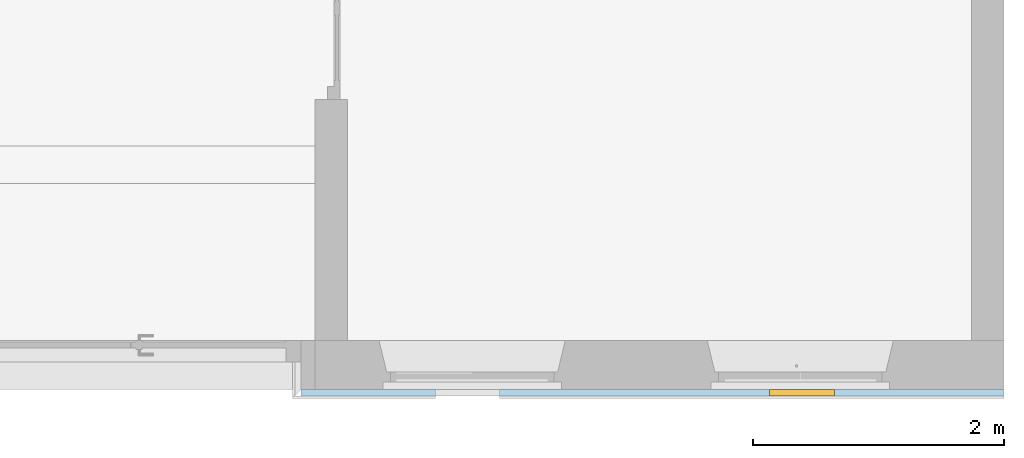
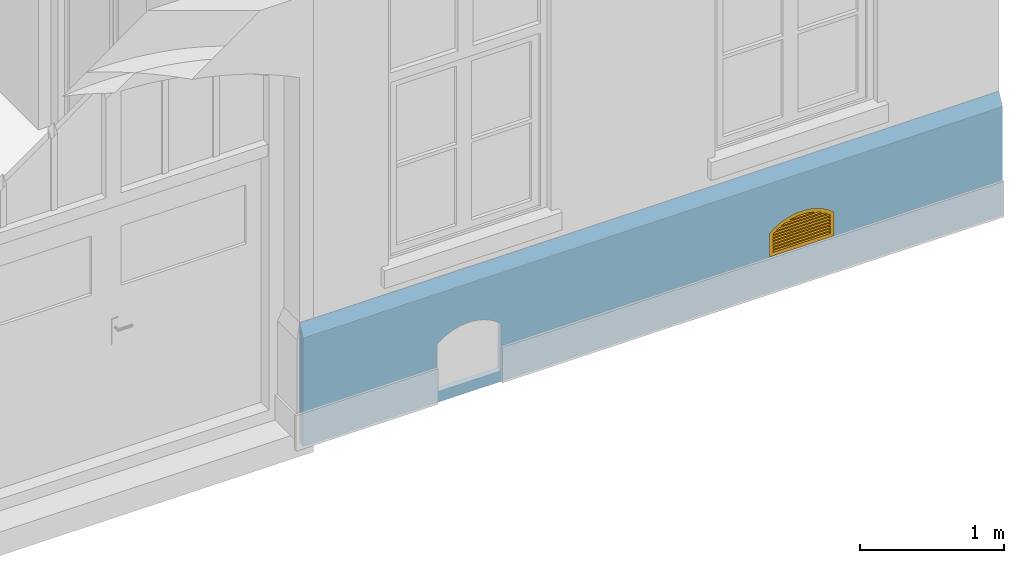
"""IFC4 building model written with IfcOpenShell, lengths in metres."""

import ifcopenshell
import ifcopenshell.guid

model = None  # the IFC model being written
_history = None  # IfcOwnerHistory: only IFC2X3 demands one
_inside = {}  # id of a spatial element -> (the spatial element, [elements in it])
_under = {}  # id of a project, library or spatial element -> (it, [spatial elements below it])
_declared = {}  # id of a project -> (the project, [libraries it declares])
_typed = {}  # id of a type object -> (the type object, [elements of that type])
_made_of = {}  # id of a material, layer set ... -> (it, [elements and type objects made of it])


def new_model(schema):
    """Start an empty IFC model of exactly this schema.

    Asked for "IFC4X3", IfcOpenShell would pick the latest addendum, in which some entities
    have other attributes; the version numbers below select the first issue.
    IFC2X3 requires an IfcOwnerHistory on every rooted entity: one is made here for all.
    """
    global model, _history
    if schema == "IFC4X3":
        model = ifcopenshell.file(schema_version=(4, 3, 0, 0))
    else:
        model = ifcopenshell.file(schema=schema)
    _inside.clear()
    _under.clear()
    _declared.clear()
    _typed.clear()
    _made_of.clear()
    _history = None
    if model.schema == "IFC2X3":
        org = make("IfcOrganization", Name="unknown")
        user = make(
            "IfcPersonAndOrganization",
            ThePerson=make("IfcPerson", FamilyName="unknown"),
            TheOrganization=org,
        )
        app = make(
            "IfcApplication",
            ApplicationDeveloper=org,
            Version="unknown",
            ApplicationFullName="unknown",
            ApplicationIdentifier="unknown",
        )
        _history = make(
            "IfcOwnerHistory",
            OwningUser=user,
            OwningApplication=app,
            ChangeAction="ADDED",
            CreationDate=0,
        )
    return model


def make(cls, **values):
    """One entity of the class cls with the attributes given. An attribute that is None is left unset."""
    return model.create_entity(
        cls, **{name: value for name, value in values.items() if value is not None}
    )


def entity(cls, *values):
    """Any entity or typed value of the class cls, its attributes in the order of the schema. None: left unset."""
    e = model.create_entity(cls)
    for i, value in enumerate(values):
        if value is not None:
            e[i] = value
    return e


def rooted(cls, **values):
    """An entity with a GlobalId (a new one), such as an element, a storey or a relation."""
    return make(cls, GlobalId=ifcopenshell.guid.new(), OwnerHistory=_history, **values)


def si_unit(unit_type, name, prefix=None):
    """IfcSIUnit, for example si_unit("LENGTHUNIT", "METRE", prefix="MILLI")."""
    return make("IfcSIUnit", UnitType=unit_type, Prefix=prefix, Name=name)


def converted_unit(unit_type, name, factor, base, dimensions=None, offset=None):
    """IfcConversionBasedUnit, such as the inch: factor (a typed value) times the base unit."""
    return make(
        "IfcConversionBasedUnit"
        if offset is None
        else "IfcConversionBasedUnitWithOffset",
        ConversionOffset=offset,
        Dimensions=None
        if dimensions is None
        else entity("IfcDimensionalExponents", *dimensions),
        UnitType=unit_type,
        Name=name,
        ConversionFactor=make(
            "IfcMeasureWithUnit", ValueComponent=factor, UnitComponent=base
        ),
    )


def derived_unit(unit_type, elements):
    """IfcDerivedUnit: a product of units, each with its exponent."""
    return make(
        "IfcDerivedUnit",
        Elements=[
            make("IfcDerivedUnitElement", Unit=unit, Exponent=power)
            for unit, power in elements
        ],
        UnitType=unit_type,
    )


def assignment(units):
    """IfcUnitAssignment: the units of a project."""
    return None if units is None else make("IfcUnitAssignment", Units=units)


def point(xyz):
    """IfcCartesianPoint."""
    return None if xyz is None else make("IfcCartesianPoint", Coordinates=xyz)


def direction(xyz):
    """IfcDirection."""
    return None if xyz is None else make("IfcDirection", DirectionRatios=xyz)


def frame(location, z_axis=None, x_axis=None):
    """IfcAxis2Placement3D, a coordinate frame: its origin and axes. An axis left out is left unset."""
    return make(
        "IfcAxis2Placement3D",
        Location=point(location),
        Axis=direction(z_axis),
        RefDirection=direction(x_axis),
    )


def frame_2d(location, x_axis=None):
    """IfcAxis2Placement2D, a coordinate frame in the plane: its origin and x axis."""
    return make(
        "IfcAxis2Placement2D", Location=point(location), RefDirection=direction(x_axis)
    )


def origin():
    """The frame at (0, 0, 0) with its axes left unset."""
    return frame((0.0, 0.0, 0.0))


def origin_with_axes():
    """The frame at (0, 0, 0) with the z axis (0, 0, 1) and the x axis (1, 0, 0) written out."""
    return frame((0.0, 0.0, 0.0), z_axis=(0.0, 0.0, 1.0), x_axis=(1.0, 0.0, 0.0))


def place(relative_to, where):
    """IfcLocalPlacement: puts the frame where relative to a parent placement (None: the world)."""
    return make(
        "IfcLocalPlacement", PlacementRelTo=relative_to, RelativePlacement=where
    )


def context(
    kind, dimensions, precision=None, world=None, true_north=None, identifier=None
):
    """IfcGeometricRepresentationContext, for example the 3D "Model" context."""
    return make(
        "IfcGeometricRepresentationContext",
        ContextIdentifier=identifier,
        ContextType=kind,
        CoordinateSpaceDimension=dimensions,
        Precision=precision,
        WorldCoordinateSystem=world,
        TrueNorth=true_north,
    )


def subcontext(parent, identifier, kind, view, scale=None):
    """IfcGeometricRepresentationSubContext, for example "Body" below "Model"."""
    return make(
        "IfcGeometricRepresentationSubContext",
        ContextIdentifier=identifier,
        ContextType=kind,
        ParentContext=parent,
        TargetScale=scale,
        TargetView=view,
    )


def project(units=None, contexts=None):
    """IfcProject with its units and contexts."""
    return rooted(
        "IfcProject",
        Name="project",
        RepresentationContexts=contexts,
        UnitsInContext=assignment(units),
    )


def spatial(cls, under=None, at=None, **own):
    """A site, building, storey or space (cls), placed at a placement, below another one or the project."""
    s = rooted(cls, ObjectPlacement=at, **own)
    if under is not None:
        _under.setdefault(under.id(), (under, []))[1].append(s)
    return s


def polyline(points):
    """IfcPolyline through the points."""
    return make("IfcPolyline", Points=[point(p) for p in points])


def profile(cls, at=None, kind="AREA", **sizes):
    """A parametric profile (cls). Its sizes go by their IFC names, for example OverallWidth=200.0."""
    return make(cls, ProfileType=kind, Position=at, **sizes)


def rectangle(**sizes):
    """IfcRectangleProfileDef."""
    return profile("IfcRectangleProfileDef", **sizes)


def outline(outer, holes=None, kind="AREA"):
    """IfcArbitraryClosedProfileDef: a profile drawn as a closed curve; with holes, ...WithVoids."""
    if holes is None:
        return make("IfcArbitraryClosedProfileDef", ProfileType=kind, OuterCurve=outer)
    return make(
        "IfcArbitraryProfileDefWithVoids",
        ProfileType=kind,
        OuterCurve=outer,
        InnerCurves=holes,
    )


def extrude(swept, where, along, depth):
    """IfcExtrudedAreaSolid: the profile swept, set in the frame where, extruded along a direction by depth."""
    return make(
        "IfcExtrudedAreaSolid",
        SweptArea=swept,
        Position=where,
        ExtrudedDirection=direction(along),
        Depth=depth,
    )


def clip(a, b, op="DIFFERENCE"):
    """IfcBooleanClippingResult: the solid a cut by the half space b."""
    return make(
        "IfcBooleanClippingResult", Operator=op, FirstOperand=a, SecondOperand=b
    )


def halfspace(plane, agree):
    """IfcHalfSpaceSolid: all space on one side of the plane z = 0 of the frame plane."""
    return make(
        "IfcHalfSpaceSolid",
        BaseSurface=make("IfcPlane", Position=plane),
        AgreementFlag=agree,
    )


def faces_of(points, faces, orient=None, outer=None):
    """IfcFace entities. A face is a list of loops; a loop is a list of indices into points, from 0.

    orient and outer hold one flag for each loop. By default every Orientation is true, the
    first loop of a face is its IfcFaceOuterBound and the others are IfcFaceBound.
    """
    made = []
    for i, loops in enumerate(faces):
        bounds = []
        for j, loop in enumerate(loops):
            is_outer = j == 0 if outer is None else outer[i][j]
            bounds.append(
                make(
                    "IfcFaceOuterBound" if is_outer else "IfcFaceBound",
                    Bound=make("IfcPolyLoop", Polygon=[points[k] for k in loop]),
                    Orientation=True if orient is None else orient[i][j],
                )
            )
        made.append(make("IfcFace", Bounds=bounds))
    return made


def closed_shell(faces, orient=None, outer=None):
    """The faces of one IfcClosedShell. faceted_brep and surface_model build it on their shared points."""
    return ("IfcClosedShell", faces, orient, outer)


def open_shell(faces, orient=None, outer=None):
    """The faces of one IfcOpenShell. surface_model builds it on its shared points."""
    return ("IfcOpenShell", faces, orient, outer)


def surface_model(cls, points, shells):
    """IfcFaceBasedSurfaceModel or IfcShellBasedSurfaceModel (cls): surfaces that need not close."""
    shared = [point(p) for p in points]
    made = [make(c, CfsFaces=faces_of(shared, fs, o, b)) for c, fs, o, b in shells]
    if cls == "IfcFaceBasedSurfaceModel":
        return make(cls, FbsmFaces=made)
    return make(cls, SbsmBoundary=made)


def shape(context_of_items, identifier, shape_type, items):
    """IfcShapeRepresentation: the items that make up one representation, for example the "Body"."""
    return make(
        "IfcShapeRepresentation",
        ContextOfItems=context_of_items,
        RepresentationIdentifier=identifier,
        RepresentationType=shape_type,
        Items=items,
    )


def source(mapping_origin, context_of_items, identifier, shape_type, items):
    """IfcRepresentationMap: a shape defined once, which mapped items show again and again."""
    return make(
        "IfcRepresentationMap",
        MappingOrigin=mapping_origin,
        MappedRepresentation=shape(context_of_items, identifier, shape_type, items),
    )


def transform(
    local_origin,
    x_axis=None,
    y_axis=None,
    z_axis=None,
    scale=None,
    scale2=None,
    scale3=None,
    uniform=True,
):
    """IfcCartesianTransformationOperator3D, or its non-uniform kind. x_axis, y_axis, z_axis: its Axis1, 2, 3."""
    if uniform:
        return make(
            "IfcCartesianTransformationOperator3D",
            Axis1=direction(x_axis),
            Axis2=direction(y_axis),
            LocalOrigin=point(local_origin),
            Scale=scale,
            Axis3=direction(z_axis),
        )
    return make(
        "IfcCartesianTransformationOperator3DnonUniform",
        Axis1=direction(x_axis),
        Axis2=direction(y_axis),
        LocalOrigin=point(local_origin),
        Scale=scale,
        Axis3=direction(z_axis),
        Scale2=scale2,
        Scale3=scale3,
    )


def mapped(mapping_source, mapping_target):
    """IfcMappedItem: shows the shape of a source again, moved by a transform."""
    return make(
        "IfcMappedItem", MappingSource=mapping_source, MappingTarget=mapping_target
    )


def material(Name=None, Category=None):
    """IfcMaterial."""
    return make("IfcMaterial", Name=Name, Category=Category)


def layer(
    of_material, thickness, ventilated=None, Name=None, Category=None, Priority=None
):
    """IfcMaterialLayer: one layer of a wall or slab, of a material (None: an air gap)."""
    return make(
        "IfcMaterialLayer",
        Material=of_material,
        LayerThickness=thickness,
        IsVentilated=ventilated,
        Name=Name,
        Category=Category,
        Priority=Priority,
    )


def layer_set(layers, Name=None):
    """IfcMaterialLayerSet."""
    return make("IfcMaterialLayerSet", MaterialLayers=layers, LayerSetName=Name)


def layer_usage(for_layer_set, set_direction, sense, offset, extent=None):
    """IfcMaterialLayerSetUsage: how a layer set lies in its element."""
    return make(
        "IfcMaterialLayerSetUsage",
        ForLayerSet=for_layer_set,
        LayerSetDirection=set_direction,
        DirectionSense=sense,
        OffsetFromReferenceLine=offset,
        ReferenceExtent=extent,
    )


def made_of(thing, what):
    """Note that an element or type object is made of a material, layer set ...; save() writes the relation."""
    if what is not None:
        _made_of.setdefault(what.id(), (what, []))[1].append(thing)
    return thing


def element(
    cls,
    number,
    at=None,
    inside=None,
    cuts=None,
    type_object=None,
    material=None,
    context=None,
    identifier="Body",
    shape_type=None,
    held_by="IfcProductDefinitionShape",
    body=None,
    shapes=None,
    **own,
):
    """One element of the class cls, such as IfcWall. Its Tag is "e" and its number.

    at: its placement. inside: the storey or other place that contains it. cuts: it is an
    opening in that element (IfcRelVoidsElement). A single representation is given by context,
    identifier, shape_type and body (its items); several are given by shapes. held_by: the class
    of the entity that holds the representations. save() writes the other relations.
    """
    e = rooted(cls, Tag="e%d" % number, ObjectPlacement=at, **own)
    if body is not None:
        shapes = [shape(context, identifier, shape_type, body)]
    if shapes is not None:
        e.Representation = make(held_by, Representations=shapes)
    if inside is not None:
        _inside.setdefault(inside.id(), (inside, []))[1].append(e)
    if cuts is not None:
        rooted(
            "IfcRelVoidsElement", RelatingBuildingElement=cuts, RelatedOpeningElement=e
        )
    if type_object is not None:
        _typed.setdefault(type_object.id(), (type_object, []))[1].append(e)
    return made_of(e, material)


def fill(opening, filler):
    """IfcRelFillsElement: the door or window that sits in an opening."""
    return rooted(
        "IfcRelFillsElement",
        RelatingOpeningElement=opening,
        RelatedBuildingElement=filler,
    )


def aggregate(whole, parts):
    """IfcRelAggregates: a whole, such as a stair, and the parts it consists of."""
    return rooted("IfcRelAggregates", RelatingObject=whole, RelatedObjects=parts)


def save(model, path):
    """Write the relations noted so far, then the file.

    IfcRelAggregates (storeys below a building ...), IfcRelContainedInSpatialStructure (elements
    in a storey), IfcRelDefinesByType, IfcRelAssociatesMaterial and IfcRelDeclares: one each for
    every whole, place, type object, material and project.
    """
    for whole, parts in _under.values():
        aggregate(whole, parts)
    for where, things in _inside.values():
        rooted(
            "IfcRelContainedInSpatialStructure",
            RelatedElements=things,
            RelatingStructure=where,
        )
    for kind, things in _typed.values():
        rooted("IfcRelDefinesByType", RelatedObjects=things, RelatingType=kind)
    for what, things in _made_of.values():
        rooted("IfcRelAssociatesMaterial", RelatedObjects=things, RelatingMaterial=what)
    for by, libraries in _declared.values():
        rooted("IfcRelDeclares", RelatingContext=by, RelatedDefinitions=libraries)
    model.write(path)


model = new_model("IFC4")

# Units and contexts
model_context = context("Model", 3, precision=1e-05, world=origin())
body_context = subcontext(model_context, "Body", "Model", "MODEL_VIEW")
ifc_project = project(units=[si_unit("LENGTHUNIT", "METRE"), si_unit("AREAUNIT", "SQUARE_METRE"), si_unit("VOLUMEUNIT", "CUBIC_METRE"), si_unit("MASSUNIT", "GRAM", prefix="KILO"), converted_unit("PLANEANGLEUNIT", "DEGREE", entity("IfcPlaneAngleMeasure", 0.0174532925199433), si_unit("PLANEANGLEUNIT", "RADIAN"), dimensions=[0, 0, 0, 0, 0, 0, 0]), derived_unit("THERMALTRANSMITTANCEUNIT", [(si_unit("POWERUNIT", "WATT"), 1), (si_unit("THERMODYNAMICTEMPERATUREUNIT", "KELVIN"), -1), (si_unit("LENGTHUNIT", "METRE"), -2)]), derived_unit("VOLUMETRICFLOWRATEUNIT", [(si_unit("LENGTHUNIT", "METRE"), 3), (converted_unit("TIMEUNIT", "hour", entity("IfcTimeMeasure", 3600.0), si_unit("TIMEUNIT", "SECOND"), dimensions=[0, 0, 1, 0, 0, 0, 0]), -1), (si_unit("LENGTHUNIT", "METRE"), -1)])], contexts=[model_context])

# Building, storeys
building_placement = place(None, origin())
building = spatial("IfcBuilding", under=ifc_project, at=building_placement, Name="Bestandsgebäude A - Sporthalle / Wohnhaus (TB 100-499)   ANPASSEN !!!", CompositionType="ELEMENT")
storey_1_placement = place(building_placement, origin())
storey_1 = spatial("IfcBuildingStorey", under=building, at=storey_1_placement, Name="Geb. A Erdgeschoss (TB 200-249)", CompositionType="ELEMENT", Elevation=0.0)
storey_2_placement = place(storey_1_placement, origin())
storey_2 = spatial("IfcBuildingStorey", under=storey_1, at=storey_2_placement, Name="Architektur (TB 200-209)", CompositionType="PARTIAL")

# Wall, openings, window
ifc_material = material(Name="concrete")
ifc_layer = layer(ifc_material, 0.05)
ifc_layer_set = layer_set([ifc_layer])
ifc_layer_usage = layer_usage(ifc_layer_set, "AXIS2", "POSITIVE", 0.0)
wall_placement = place(storey_2_placement, frame((0.0, 0.0, -0.3), z_axis=(0.0, 0.0, 1.0), x_axis=(-1.0, 1.22464679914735e-16, 0.0)))
wall = element("IfcWall", 1, at=wall_placement, inside=storey_2, material=ifc_layer_usage, Name="reinforced - bearing", PredefinedType="USERDEFINED", context=body_context, shape_type="Clipping", body=[
    clip(extrude(rectangle(XDim=5.58999999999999, YDim=0.05, at=frame_2d((2.795, 0.025), x_axis=(1.0, 0.0))), origin_with_axes(), (0.0, 0.0, 1.0), 1.02), halfspace(frame((2.795, 0.025, 0.97), z_axis=(1.2679392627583e-16, -0.894427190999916, -0.447213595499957), x_axis=(1.0, 4.394515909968e-19, 2.84725532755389e-16)), True)),
])
opening_1_placement = place(wall_placement, frame((4.01064554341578, 0.0, 0.09), z_axis=(0.0, 1.0, 0.0), x_axis=(0.0, 0.0, 1.0)))
element("IfcOpeningElement", 2, at=opening_1_placement, cuts=wall, Name="Window opening", PredefinedType="OPENING", context=body_context, shape_type="SweptSolid", body=[
    extrude(outline(polyline([(0.4, 0.5124393), (0.412364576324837, 0.498324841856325), (0.424013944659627, 0.483614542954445), (0.434919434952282, 0.468344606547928), (0.445054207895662, 0.452552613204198), (0.454393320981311, 0.436277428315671), (0.462913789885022, 0.419559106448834), (0.470594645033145, 0.402438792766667), (0.477416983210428, 0.384958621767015), (0.483364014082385, 0.367161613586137), (0.488421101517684, 0.349091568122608), (0.492575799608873, 0.330792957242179), (0.495817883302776, 0.312310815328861), (0.498139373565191, 0.29369062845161), (0.499534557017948, 0.27497822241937), (0.5, 0.25621965), (0.499534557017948, 0.23746107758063), (0.498139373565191, 0.21874867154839), (0.495817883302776, 0.200128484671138), (0.492575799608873, 0.181646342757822), (0.488421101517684, 0.163347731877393), (0.483364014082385, 0.145277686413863), (0.477416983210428, 0.127480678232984), (0.470594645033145, 0.110000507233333), (0.462913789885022, 0.0928801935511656), (0.454393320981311, 0.0761618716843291), (0.445054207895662, 0.0598866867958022), (0.434919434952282, 0.0440946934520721), (0.424013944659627, 0.0288247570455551), (0.412364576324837, 0.0141144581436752), (0.4, 0.0), (0.0, 0.0), (0.0, 0.5124393), (0.4, 0.5124393)])), origin_with_axes(), (0.0, 0.0, 1.0), 0.05),
])
opening_2_placement = place(wall_placement, frame((1.34725545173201, 0.0, 0.3), z_axis=(0.0, 1.0, 0.0), x_axis=(0.0, 0.0, 1.0)))
opening_2 = element("IfcOpeningElement", 3, at=opening_2_placement, cuts=wall, Name="Window opening", PredefinedType="OPENING", context=body_context, shape_type="SweptSolid", body=[
    extrude(outline(polyline([(0.2, 0.516638), (0.212372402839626, 0.502361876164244), (0.224027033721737, 0.487494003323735), (0.234935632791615, 0.472070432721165), (0.245071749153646, 0.456128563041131), (0.254410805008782, 0.439707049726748), (0.262930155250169, 0.422845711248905), (0.270609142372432, 0.405585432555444), (0.277429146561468, 0.387968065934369), (0.283373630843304, 0.370036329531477), (0.288428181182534, 0.351833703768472), (0.29258054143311, 0.333404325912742), (0.295820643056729, 0.314792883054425), (0.298140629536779, 0.296044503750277), (0.299534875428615, 0.277204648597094), (0.3, 0.258319), (0.299534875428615, 0.239433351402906), (0.298140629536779, 0.220593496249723), (0.295820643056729, 0.201845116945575), (0.29258054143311, 0.183233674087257), (0.288428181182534, 0.164804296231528), (0.283373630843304, 0.146601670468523), (0.277429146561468, 0.128669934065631), (0.270609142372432, 0.111052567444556), (0.262930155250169, 0.0937922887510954), (0.254410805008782, 0.0769309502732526), (0.245071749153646, 0.0605094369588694), (0.234935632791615, 0.0445675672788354), (0.224027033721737, 0.0291439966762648), (0.212372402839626, 0.0142761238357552), (0.2, 0.0), (0.0, 0.0), (0.0, 0.516638), (0.2, 0.516638)])), origin_with_axes(), (0.0, 0.0, 1.0), 0.05),
])
shared_shape = source(origin_with_axes(), body_context, "Body", "SurfaceModel", [
    surface_model("IfcShellBasedSurfaceModel", [(0.502361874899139, 0.0, 0.21237240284), (0.516638, 0.0, 0.2), (0.516638, 0.0, 0.0), (-4.57739997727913e-08, 0.0, 0.0), (-4.57739997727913e-08, 0.0, 0.2), (0.0142760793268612, 0.0, 0.21237240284), (0.0291439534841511, 0.0, 0.224027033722), (0.0445675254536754, 0.0, 0.234935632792), (0.0605093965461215, 0.0, 0.245071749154), (0.0769309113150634, 0.0, 0.254410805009), (0.0937922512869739, 0.0, 0.26293015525), (0.11105253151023, 0.0, 0.270609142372), (0.128669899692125, 0.0, 0.277429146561), (0.146601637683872, 0.0, 0.283373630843), (0.16480426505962, 0.0, 0.288428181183), (0.183233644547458, 0.0, 0.292580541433), (0.201845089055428, 0.0, 0.295820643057), (0.22059347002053, 0.0, 0.298140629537), (0.239433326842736, 0.0, 0.299534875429), (0.258318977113, 0.0, 0.3), (0.277204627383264, 0.0, 0.299534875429), (0.29604448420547, 0.0, 0.298140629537), (0.314792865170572, 0.0, 0.295820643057), (0.333404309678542, 0.0, 0.292580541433), (0.35183368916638, 0.0, 0.288428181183), (0.370036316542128, 0.0, 0.283373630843), (0.387968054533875, 0.0, 0.277429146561), (0.40558542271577, 0.0, 0.270609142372), (0.422845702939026, 0.0, 0.26293015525), (0.439707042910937, 0.0, 0.254410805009), (0.456128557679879, 0.0, 0.245071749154), (0.472070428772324, 0.0, 0.234935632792), (0.487494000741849, 0.0, 0.224027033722), (0.486637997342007, 0.0, 0.18630096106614), (0.483272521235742, 0.0, 0.189217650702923), (0.469567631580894, 0.0, 0.199960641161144), (0.455350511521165, 0.0, 0.210015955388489), (0.440655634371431, 0.0, 0.219359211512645), (0.425518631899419, 0.0, 0.227967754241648), (0.409976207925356, 0.0, 0.235820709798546), (0.394066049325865, 0.0, 0.242899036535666), (0.377826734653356, 0.0, 0.249185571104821), (0.361297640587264, 0.0, 0.254665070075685), (0.344518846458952, 0.0, 0.259324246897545), (0.327531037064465, 0.0, 0.263151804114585), (0.310375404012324, 0.0, 0.26613846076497), (0.293093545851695, 0.0, 0.268276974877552), (0.275727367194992, 0.0, 0.269562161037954), (0.258318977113, 0.0, 0.269990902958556), (0.240910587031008, 0.0, 0.269562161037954), (0.223544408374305, 0.0, 0.268276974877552), (0.206262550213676, 0.0, 0.26613846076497), (0.189106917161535, 0.0, 0.263151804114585), (0.172119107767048, 0.0, 0.259324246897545), (0.155340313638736, 0.0, 0.254665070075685), (0.138811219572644, 0.0, 0.249185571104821), (0.122571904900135, 0.0, 0.242899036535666), (0.106661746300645, 0.0, 0.235820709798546), (0.0911193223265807, 0.0, 0.227967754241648), (0.0759823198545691, 0.0, 0.219359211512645), (0.0612874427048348, 0.0, 0.210015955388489), (0.0470703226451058, 0.0, 0.199960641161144), (0.0333654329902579, 0.0, 0.189217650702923), (0.0299999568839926, 0.0, 0.18630096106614), (0.0299999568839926, 0.0, 0.03), (0.486637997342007, 0.0, 0.03), (0.516638, 0.05, 0.2), (0.502361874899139, 0.05, 0.21237240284), (0.487494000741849, 0.05, 0.224027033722), (0.472070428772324, 0.05, 0.234935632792), (0.456128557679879, 0.05, 0.245071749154), (0.439707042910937, 0.05, 0.254410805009), (0.422845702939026, 0.05, 0.26293015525), (0.40558542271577, 0.05, 0.270609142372), (0.387968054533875, 0.05, 0.277429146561), (0.370036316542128, 0.05, 0.283373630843), (0.35183368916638, 0.05, 0.288428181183), (0.333404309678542, 0.05, 0.292580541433), (0.314792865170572, 0.05, 0.295820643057), (0.29604448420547, 0.05, 0.298140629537), (0.277204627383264, 0.05, 0.299534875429), (0.258318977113, 0.05, 0.3), (0.239433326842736, 0.05, 0.299534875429), (0.22059347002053, 0.05, 0.298140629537), (0.201845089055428, 0.05, 0.295820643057), (0.183233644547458, 0.05, 0.292580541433), (0.16480426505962, 0.05, 0.288428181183), (0.146601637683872, 0.05, 0.283373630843), (0.128669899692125, 0.05, 0.277429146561), (0.11105253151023, 0.05, 0.270609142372), (0.0937922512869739, 0.05, 0.26293015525), (0.0769309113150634, 0.05, 0.254410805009), (0.0605093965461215, 0.05, 0.245071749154), (0.0445675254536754, 0.05, 0.234935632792), (0.0291439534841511, 0.05, 0.224027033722), (0.0142760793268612, 0.05, 0.21237240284), (-4.57739997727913e-08, 0.05, 0.2), (-4.57739997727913e-08, 0.05, 0.0), (0.516638, 0.05, 0.0), (0.483272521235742, 0.05, 0.189217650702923), (0.486637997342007, 0.05, 0.18630096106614), (0.486637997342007, 0.05, 0.03), (0.0299999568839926, 0.05, 0.03), (0.0299999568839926, 0.05, 0.18630096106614), (0.0333654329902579, 0.05, 0.189217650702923), (0.0470703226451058, 0.05, 0.199960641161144), (0.0612874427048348, 0.05, 0.210015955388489), (0.0759823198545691, 0.05, 0.219359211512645), (0.0911193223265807, 0.05, 0.227967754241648), (0.106661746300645, 0.05, 0.235820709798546), (0.122571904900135, 0.05, 0.242899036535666), (0.138811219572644, 0.05, 0.249185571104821), (0.155340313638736, 0.05, 0.254665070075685), (0.172119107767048, 0.05, 0.259324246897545), (0.189106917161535, 0.05, 0.263151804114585), (0.206262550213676, 0.05, 0.26613846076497), (0.223544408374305, 0.05, 0.268276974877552), (0.240910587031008, 0.05, 0.269562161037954), (0.258318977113, 0.05, 0.269990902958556), (0.275727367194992, 0.05, 0.269562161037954), (0.293093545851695, 0.05, 0.268276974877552), (0.310375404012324, 0.05, 0.26613846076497), (0.327531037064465, 0.05, 0.263151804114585), (0.344518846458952, 0.05, 0.259324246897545), (0.361297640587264, 0.05, 0.254665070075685), (0.377826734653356, 0.05, 0.249185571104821), (0.394066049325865, 0.05, 0.242899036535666), (0.409976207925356, 0.05, 0.235820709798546), (0.425518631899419, 0.05, 0.227967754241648), (0.440655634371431, 0.05, 0.219359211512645), (0.455350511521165, 0.05, 0.210015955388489), (0.469567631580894, 0.05, 0.199960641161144)], [closed_shell([[[0, 1, 2, 3, 4, 5, 6, 7, 8, 9, 10, 11, 12, 13, 14, 15, 16, 17, 18, 19, 20, 21, 22, 23, 24, 25, 26, 27, 28, 29, 30, 31, 32], [33, 34, 35, 36, 37, 38, 39, 40, 41, 42, 43, 44, 45, 46, 47, 48, 49, 50, 51, 52, 53, 54, 55, 56, 57, 58, 59, 60, 61, 62, 63, 64, 65]], [[66, 67, 68, 69, 70, 71, 72, 73, 74, 75, 76, 77, 78, 79, 80, 81, 82, 83, 84, 85, 86, 87, 88, 89, 90, 91, 92, 93, 94, 95, 96, 97, 98], [99, 100, 101, 102, 103, 104, 105, 106, 107, 108, 109, 110, 111, 112, 113, 114, 115, 116, 117, 118, 119, 120, 121, 122, 123, 124, 125, 126, 127, 128, 129, 130, 131]], [[1, 0, 67, 66]], [[2, 1, 66, 98]], [[3, 2, 98, 97]], [[4, 3, 97, 96]], [[5, 4, 96, 95]], [[6, 5, 95, 94]], [[7, 6, 94, 93]], [[8, 7, 93, 92]], [[9, 8, 92, 91]], [[10, 9, 91, 90]], [[11, 10, 90, 89]], [[12, 11, 89, 88]], [[13, 12, 88, 87]], [[14, 13, 87, 86]], [[15, 14, 86, 85]], [[16, 15, 85, 84]], [[17, 16, 84, 83]], [[18, 17, 83, 82]], [[19, 18, 82, 81]], [[20, 19, 81, 80]], [[21, 20, 80, 79]], [[22, 21, 79, 78]], [[23, 22, 78, 77]], [[24, 23, 77, 76]], [[25, 24, 76, 75]], [[26, 25, 75, 74]], [[27, 26, 74, 73]], [[28, 27, 73, 72]], [[29, 28, 72, 71]], [[30, 29, 71, 70]], [[31, 30, 70, 69]], [[32, 31, 69, 68]], [[0, 32, 68, 67]], [[33, 100, 99, 34]], [[65, 101, 100, 33]], [[64, 102, 101, 65]], [[63, 103, 102, 64]], [[62, 104, 103, 63]], [[61, 105, 104, 62]], [[60, 106, 105, 61]], [[59, 107, 106, 60]], [[58, 108, 107, 59]], [[57, 109, 108, 58]], [[56, 110, 109, 57]], [[55, 111, 110, 56]], [[54, 112, 111, 55]], [[53, 113, 112, 54]], [[52, 114, 113, 53]], [[51, 115, 114, 52]], [[50, 116, 115, 51]], [[49, 117, 116, 50]], [[48, 118, 117, 49]], [[47, 119, 118, 48]], [[46, 120, 119, 47]], [[45, 121, 120, 46]], [[44, 122, 121, 45]], [[43, 123, 122, 44]], [[42, 124, 123, 43]], [[41, 125, 124, 42]], [[40, 126, 125, 41]], [[39, 127, 126, 40]], [[38, 128, 127, 39]], [[37, 129, 128, 38]], [[36, 130, 129, 37]], [[35, 131, 130, 36]], [[34, 99, 131, 35]]], orient=[[False, False], [False, False], [False], [False], [False], [False], [False], [False], [False], [False], [False], [False], [False], [False], [False], [False], [False], [False], [False], [False], [False], [False], [False], [False], [False], [False], [False], [False], [False], [False], [False], [False], [False], [False], [False], [False], [False], [False], [False], [False], [False], [False], [False], [False], [False], [False], [False], [False], [False], [False], [False], [False], [False], [False], [False], [False], [False], [False], [False], [False], [False], [False], [False], [False], [False], [False], [False], [False]])]),
    surface_model("IfcShellBasedSurfaceModel", [(0.486637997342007, 0.0, 0.055), (0.486637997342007, 0.0, 0.045), (0.0300000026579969, 0.0, 0.045), (0.0300000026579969, 0.0, 0.055), (0.486637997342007, 0.05, 0.045), (0.486637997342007, 0.05, 0.055), (0.0300000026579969, 0.05, 0.055), (0.0300000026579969, 0.05, 0.045)], [closed_shell([[[0, 1, 2, 3]], [[4, 5, 6, 7]], [[1, 0, 5, 4]], [[2, 1, 4, 7]], [[3, 2, 7, 6]], [[0, 3, 6, 5]]], orient=[[False], [False], [False], [False], [False], [False]])]),
    surface_model("IfcShellBasedSurfaceModel", [(0.486637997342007, 0.0, 0.08), (0.486637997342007, 0.0, 0.07), (0.0300000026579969, 0.0, 0.07), (0.0300000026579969, 0.0, 0.08), (0.486637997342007, 0.05, 0.07), (0.486637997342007, 0.05, 0.08), (0.0300000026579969, 0.05, 0.08), (0.0300000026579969, 0.05, 0.07)], [closed_shell([[[0, 1, 2, 3]], [[4, 5, 6, 7]], [[1, 0, 5, 4]], [[2, 1, 4, 7]], [[3, 2, 7, 6]], [[0, 3, 6, 5]]], orient=[[False], [False], [False], [False], [False], [False]])]),
    surface_model("IfcShellBasedSurfaceModel", [(0.486637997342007, 0.0, 0.105), (0.486637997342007, 0.0, 0.095), (0.0300000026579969, 0.0, 0.095), (0.0300000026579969, 0.0, 0.105), (0.486637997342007, 0.05, 0.095), (0.486637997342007, 0.05, 0.105), (0.0300000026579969, 0.05, 0.105), (0.0300000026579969, 0.05, 0.095)], [closed_shell([[[0, 1, 2, 3]], [[4, 5, 6, 7]], [[1, 0, 5, 4]], [[2, 1, 4, 7]], [[3, 2, 7, 6]], [[0, 3, 6, 5]]], orient=[[False], [False], [False], [False], [False], [False]])]),
    surface_model("IfcShellBasedSurfaceModel", [(0.486637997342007, 0.0, 0.13), (0.486637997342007, 0.0, 0.12), (0.0300000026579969, 0.0, 0.12), (0.0300000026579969, 0.0, 0.13), (0.486637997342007, 0.05, 0.12), (0.486637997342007, 0.05, 0.13), (0.0300000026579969, 0.05, 0.13), (0.0300000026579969, 0.05, 0.12)], [closed_shell([[[0, 1, 2, 3]], [[4, 5, 6, 7]], [[1, 0, 5, 4]], [[2, 1, 4, 7]], [[3, 2, 7, 6]], [[0, 3, 6, 5]]], orient=[[False], [False], [False], [False], [False], [False]])]),
    surface_model("IfcShellBasedSurfaceModel", [(0.486637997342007, 0.0, 0.155), (0.486637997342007, 0.0, 0.145), (0.0300000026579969, 0.0, 0.145), (0.0300000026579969, 0.0, 0.155), (0.486637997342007, 0.05, 0.145), (0.486637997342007, 0.05, 0.155), (0.0300000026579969, 0.05, 0.155), (0.0300000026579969, 0.05, 0.145)], [closed_shell([[[0, 1, 2, 3]], [[4, 5, 6, 7]], [[1, 0, 5, 4]], [[2, 1, 4, 7]], [[3, 2, 7, 6]], [[0, 3, 6, 5]]], orient=[[False], [False], [False], [False], [False], [False]])]),
    surface_model("IfcShellBasedSurfaceModel", [(0.486637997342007, 0.0, 0.18), (0.486637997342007, 0.0, 0.17), (0.0300000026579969, 0.0, 0.17), (0.0300000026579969, 0.0, 0.18), (0.486637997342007, 0.05, 0.17), (0.486637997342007, 0.05, 0.18), (0.0300000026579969, 0.05, 0.18), (0.0300000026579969, 0.05, 0.17)], [closed_shell([[[0, 1, 2, 3]], [[4, 5, 6, 7]], [[1, 0, 5, 4]], [[2, 1, 4, 7]], [[3, 2, 7, 6]], [[0, 3, 6, 5]]], orient=[[False], [False], [False], [False], [False], [False]])]),
    surface_model("IfcShellBasedSurfaceModel", [(0.475895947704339, 0.0, 0.195), (0.0407420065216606, 0.0, 0.195), (0.0470703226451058, 0.0, 0.199960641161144), (0.0541954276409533, 0.0, 0.205), (0.462442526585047, 0.0, 0.205), (0.469567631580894, 0.0, 0.199960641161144), (0.462442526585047, 0.05, 0.205), (0.0541954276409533, 0.05, 0.205), (0.0470703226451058, 0.05, 0.199960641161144), (0.0407420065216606, 0.05, 0.195), (0.475895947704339, 0.05, 0.195), (0.469567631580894, 0.05, 0.199960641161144)], [closed_shell([[[0, 1, 2, 3, 4, 5]], [[6, 7, 8, 9, 10, 11]], [[1, 0, 10, 9]], [[4, 3, 7, 6]], [[8, 2, 1, 9]], [[2, 8, 7, 3]], [[11, 5, 4, 6]], [[5, 11, 10, 0]]], orient=[[False], [False], [False], [False], [False], [False], [False], [False]])]),
    surface_model("IfcShellBasedSurfaceModel", [(0.439528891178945, 0.0, 0.22), (0.0771090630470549, 0.0, 0.22), (0.0911193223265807, 0.0, 0.227967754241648), (0.0951415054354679, 0.0, 0.23), (0.421496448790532, 0.0, 0.23), (0.425518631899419, 0.0, 0.227967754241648), (0.421496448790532, 0.05, 0.23), (0.0951415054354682, 0.05, 0.23), (0.0911193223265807, 0.05, 0.227967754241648), (0.0771090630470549, 0.05, 0.22), (0.439528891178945, 0.05, 0.22), (0.425518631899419, 0.05, 0.227967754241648)], [closed_shell([[[0, 1, 2, 3, 4, 5]], [[6, 7, 8, 9, 10, 11]], [[1, 0, 10, 9]], [[4, 3, 7, 6]], [[8, 2, 1, 9]], [[2, 8, 7, 3]], [[11, 5, 4, 6]], [[5, 11, 10, 0]]], orient=[[False], [False], [False], [False], [False], [False], [False], [False]])]),
    surface_model("IfcShellBasedSurfaceModel", [(0.388638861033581, 0.0, 0.245), (0.127999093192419, 0.0, 0.245), (0.138811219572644, 0.0, 0.249185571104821), (0.155340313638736, 0.0, 0.254665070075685), (0.156546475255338, 0.0, 0.255), (0.360091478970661, 0.0, 0.255), (0.361297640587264, 0.0, 0.254665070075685), (0.377826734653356, 0.0, 0.249185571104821), (0.360091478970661, 0.05, 0.255), (0.156546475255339, 0.05, 0.255), (0.155340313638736, 0.05, 0.254665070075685), (0.138811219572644, 0.05, 0.249185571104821), (0.127999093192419, 0.05, 0.245), (0.388638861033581, 0.05, 0.245), (0.377826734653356, 0.05, 0.249185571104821), (0.361297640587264, 0.05, 0.254665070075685)], [closed_shell([[[0, 1, 2, 3, 4, 5, 6, 7]], [[8, 9, 10, 11, 12, 13, 14, 15]], [[1, 0, 13, 12]], [[5, 4, 9, 8]], [[11, 2, 1, 12]], [[2, 11, 10, 3]], [[3, 10, 9, 4]], [[15, 6, 5, 8]], [[6, 15, 14, 7]], [[7, 14, 13, 0]]], orient=[[False], [False], [False], [False], [False], [False], [False], [False], [False], [False]])]),
    surface_model("IfcShellBasedSurfaceModel", [(0.486637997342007, 0.025, 0.045), (0.486637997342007, 0.025, 0.03), (0.0299999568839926, 0.025, 0.03), (0.0299999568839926, 0.025, 0.045)], [open_shell([[[0, 1, 2, 3]]], orient=[[False]])]),
    surface_model("IfcShellBasedSurfaceModel", [(0.486637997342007, 0.025, 0.07), (0.486637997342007, 0.025, 0.055), (0.0299999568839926, 0.025, 0.055), (0.0299999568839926, 0.025, 0.07)], [open_shell([[[0, 1, 2, 3]]], orient=[[False]])]),
    surface_model("IfcShellBasedSurfaceModel", [(0.486637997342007, 0.025, 0.095), (0.486637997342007, 0.025, 0.08), (0.0299999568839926, 0.025, 0.08), (0.0299999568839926, 0.025, 0.095)], [open_shell([[[0, 1, 2, 3]]], orient=[[False]])]),
    surface_model("IfcShellBasedSurfaceModel", [(0.486637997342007, 0.025, 0.12), (0.486637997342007, 0.025, 0.105), (0.0299999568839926, 0.025, 0.105), (0.0299999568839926, 0.025, 0.12)], [open_shell([[[0, 1, 2, 3]]], orient=[[False]])]),
    surface_model("IfcShellBasedSurfaceModel", [(0.486637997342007, 0.025, 0.145), (0.486637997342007, 0.025, 0.13), (0.0299999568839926, 0.025, 0.13), (0.0299999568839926, 0.025, 0.145)], [open_shell([[[0, 1, 2, 3]]], orient=[[False]])]),
    surface_model("IfcShellBasedSurfaceModel", [(0.486637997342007, 0.025, 0.17), (0.486637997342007, 0.025, 0.155), (0.0299999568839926, 0.025, 0.155), (0.0299999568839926, 0.025, 0.17)], [open_shell([[[0, 1, 2, 3]]], orient=[[False]])]),
    surface_model("IfcShellBasedSurfaceModel", [(0.483272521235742, 0.025, 0.189217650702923), (0.486637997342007, 0.025, 0.18630096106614), (0.486637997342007, 0.025, 0.18), (0.0299999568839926, 0.025, 0.18), (0.0299999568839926, 0.025, 0.18630096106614), (0.0333654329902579, 0.025, 0.189217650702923), (0.0407420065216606, 0.025, 0.195), (0.475895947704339, 0.025, 0.195)], [open_shell([[[0, 1, 2, 3, 4, 5, 6, 7]]], orient=[[False]])]),
    surface_model("IfcShellBasedSurfaceModel", [(0.455350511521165, 0.025, 0.210015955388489), (0.462442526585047, 0.025, 0.205), (0.0541954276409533, 0.025, 0.205), (0.0612874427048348, 0.025, 0.210015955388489), (0.0759823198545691, 0.025, 0.219359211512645), (0.0771090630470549, 0.025, 0.22), (0.439528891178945, 0.025, 0.22), (0.440655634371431, 0.025, 0.219359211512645)], [open_shell([[[0, 1, 2, 3, 4, 5, 6, 7]]], orient=[[False]])]),
    surface_model("IfcShellBasedSurfaceModel", [(0.409976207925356, 0.025, 0.235820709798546), (0.421496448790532, 0.025, 0.23), (0.0951415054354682, 0.025, 0.23), (0.106661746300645, 0.025, 0.235820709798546), (0.122571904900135, 0.025, 0.242899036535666), (0.127999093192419, 0.025, 0.245), (0.388638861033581, 0.025, 0.245), (0.394066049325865, 0.025, 0.242899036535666)], [open_shell([[[0, 1, 2, 3, 4, 5, 6, 7]]], orient=[[False]])]),
    surface_model("IfcShellBasedSurfaceModel", [(0.344518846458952, 0.025, 0.259324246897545), (0.360091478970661, 0.025, 0.255), (0.156546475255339, 0.025, 0.255), (0.172119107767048, 0.025, 0.259324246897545), (0.189106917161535, 0.025, 0.263151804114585), (0.206262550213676, 0.025, 0.26613846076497), (0.223544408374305, 0.025, 0.268276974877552), (0.240910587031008, 0.025, 0.269562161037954), (0.258318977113, 0.025, 0.269990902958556), (0.275727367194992, 0.025, 0.269562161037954), (0.293093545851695, 0.025, 0.268276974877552), (0.310375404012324, 0.025, 0.26613846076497), (0.327531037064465, 0.025, 0.263151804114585)], [open_shell([[[0, 1, 2, 3, 4, 5, 6, 7, 8, 9, 10, 11, 12]]], orient=[[False]])]),
])
window_placement = place(opening_2_placement, frame((0.0, 0.516638, 0.05), z_axis=(1.0, 0.0, 0.0), x_axis=(0.0, -1.0, 9.86076131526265e-32)))
window = element("IfcWindow", 4, at=window_placement, inside=storey_2, Name="Window", OverallHeight=0.3, OverallWidth=0.51664, PartitioningType="USERDEFINED", PredefinedType="WINDOW", context=body_context, shape_type="MappedRepresentation", body=[
    mapped(shared_shape, transform((0.0, 0.0, 0.0), x_axis=(1.0, 0.0, 0.0), y_axis=(0.0, 1.0, 0.0), z_axis=(0.0, 0.0, 1.0), scale=1.0)),
])
fill(opening_2, window)

save(model, "model.ifc")
